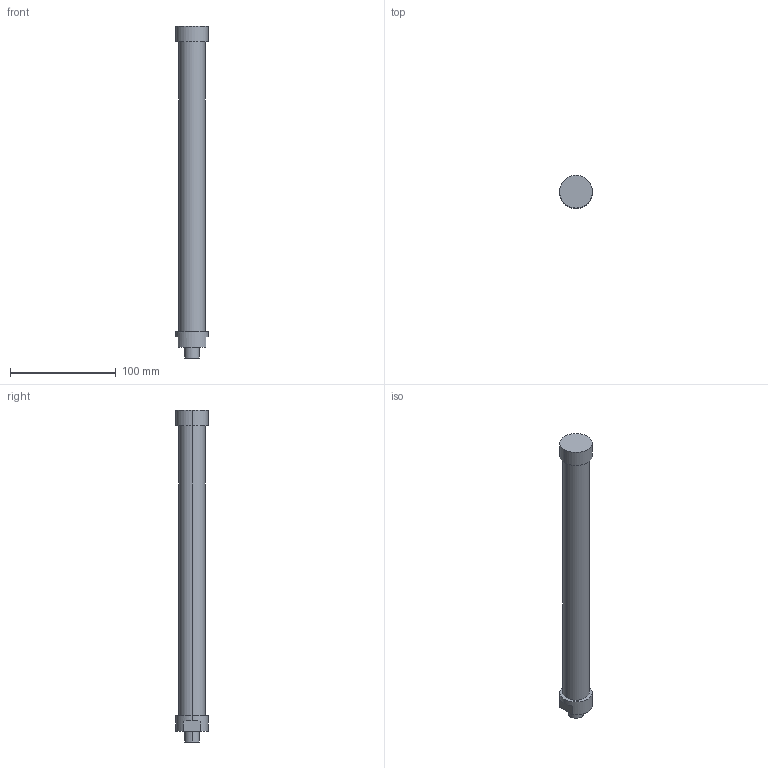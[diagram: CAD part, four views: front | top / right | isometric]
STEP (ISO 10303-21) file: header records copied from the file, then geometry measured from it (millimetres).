
FILE_DESCRIPTION(('STEP AP214'),'1');
FILE_NAME('C:/Users/Autocad/Desktop/L314-C90S1-FN.stp','2014-02-10T10:51:24',(' '),(' '),'Spatial InterOp 3D',' ',' ');
FILE_SCHEMA(('automotive_design'));
Length unit declared in the file: metre
Products named in the file (2): 1; 2
Bounding box: 31 x 31 x 314 mm (x, y, z)
Volume: 157713.5 mm3; surface area: 27486.8 mm2
Topology: 1 solids, 4 shells, 23 faces, 54 edges, 40 vertices
Faces by surface type: cylinder 12, plane 11
Entity records: 916 total; most frequent: DIRECTION 136, CARTESIAN_POINT 119, ORIENTED_EDGE 96, AXIS2_PLACEMENT_3D 57, EDGE_CURVE 54, VERTEX_POINT 40, CIRCLE 32, EDGE_LOOP 28
